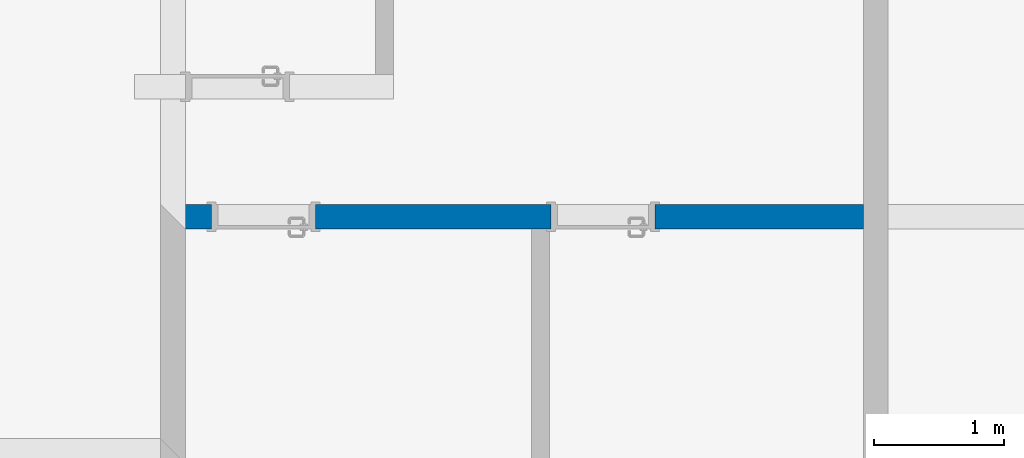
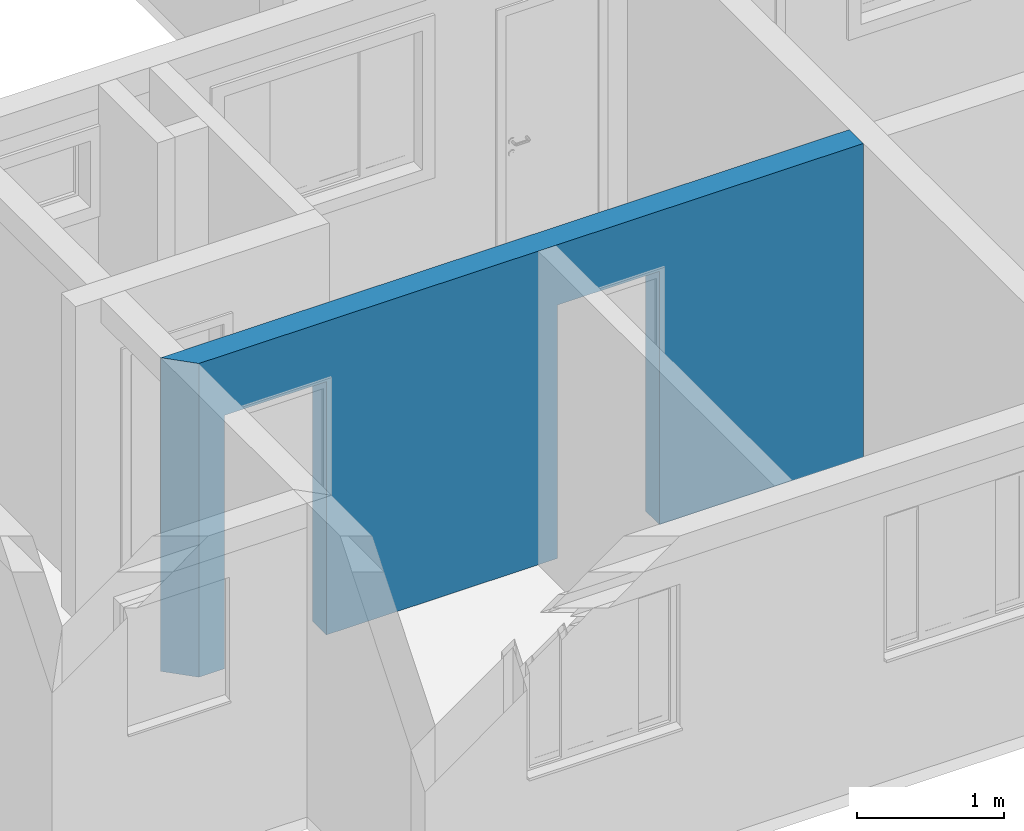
# One storey, part 8 of 47: 1 wall, 2 openings.
"""IFC2X3 building model written with IfcOpenShell, lengths in millimetres."""

from ifc_helpers import new_model, entity, si_unit, converted_unit, derived_unit, money_unit, direction, frame, origin_with_axes, origin_2d_with_axis, place, context, subcontext, project, spatial, polyline, rectangle, outline, extrude, material, layer, layer_set, layer_usage, type_object, element, save


model = new_model("IFC2X3")

# Units and contexts
model_context = context("Model", 3, precision=0.01, world=origin_with_axes(), true_north=direction((0.0, 1.0)))
body_context = subcontext(model_context, "Body", "Model", "MODEL_VIEW")
ifc_project = project(units=[si_unit("LENGTHUNIT", "METRE", prefix="MILLI"), si_unit("AREAUNIT", "SQUARE_METRE"), si_unit("VOLUMEUNIT", "CUBIC_METRE"), converted_unit("PLANEANGLEUNIT", "DEGREE", entity("IfcPlaneAngleMeasure", 0.0174532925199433), si_unit("PLANEANGLEUNIT", "RADIAN"), dimensions=[0, 0, 0, 0, 0, 0, 0]), money_unit("USD"), converted_unit("TIMEUNIT", "Year", entity("IfcTimeMeasure", 31557600.0), si_unit("TIMEUNIT", "SECOND"), dimensions=[0, 0, 1, 0, 0, 0, 0]), si_unit("MASSUNIT", "GRAM", prefix="KILO"), si_unit("THERMODYNAMICTEMPERATUREUNIT", "DEGREE_CELSIUS"), si_unit("LUMINOUSINTENSITYUNIT", "LUMEN"), si_unit("ENERGYUNIT", "JOULE", prefix="MEGA"), derived_unit("THERMALCONDUCTANCEUNIT", [(si_unit("POWERUNIT", "WATT"), 1), (si_unit("LENGTHUNIT", "METRE"), -1), (si_unit("THERMODYNAMICTEMPERATUREUNIT", "KELVIN"), -1)]), derived_unit("SPECIFICHEATCAPACITYUNIT", [(si_unit("ENERGYUNIT", "JOULE"), 1), (si_unit("MASSUNIT", "GRAM", prefix="KILO"), -1), (si_unit("THERMODYNAMICTEMPERATUREUNIT", "KELVIN"), -1)]), derived_unit("MASSDENSITYUNIT", [(si_unit("MASSUNIT", "GRAM", prefix="KILO"), 1), (si_unit("VOLUMEUNIT", "CUBIC_METRE"), -1)])], contexts=[model_context])

# Site, building, storey
site_placement = place(None, origin_with_axes())
site = spatial("IfcSite", under=ifc_project, at=site_placement, Name="Local", CompositionType="ELEMENT")
building_placement = place(site_placement, origin_with_axes())
building = spatial("IfcBuilding", under=site, at=building_placement, Name="Construção", CompositionType="ELEMENT")
storey_placement = place(building_placement, origin_with_axes())
storey = spatial("IfcBuildingStorey", under=building, at=storey_placement, Name="Pavimento Tipo", CompositionType="ELEMENT", Elevation=0.0)

# Wall, openings
ifc_material = material(Name="Concreto - Estrutural")
ifc_layer = layer(ifc_material, 190.0, ventilated="UNKNOWN")
ifc_layer_set = layer_set([ifc_layer], Name="Concreto - Estrutural 190")
ifc_layer_usage = layer_usage(ifc_layer_set, "AXIS2", "NEGATIVE", 0.0)
wall_type = type_object("IfcWallType", Name="Concreto - Estrutural 190", PredefinedType="NOTDEFINED")
wall_placement = place(storey_placement, frame((-4547.433002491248, 1986.981417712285, 0.0), z_axis=(0.0, 0.0, 1.0), x_axis=(1.0, 0.0, 0.0)))
wall = element("IfcWallStandardCase", 1, at=wall_placement, inside=storey, type_object=wall_type, material=ifc_layer_usage, Name="Apartamento 3 - Parede-084", context=body_context, shape_type="SweptSolid", body=[
    extrude(outline(polyline([(190.0000000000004, -189.9999999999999), (5399.999999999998, -189.9999999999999), (5399.999999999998, 0.0), (0.0, 0.0), (190.0000000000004, -189.9999999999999)])), origin_with_axes(), (0.0, 0.0, 1.0), 2600.0),
])
opening_1_placement = place(wall_placement, frame((790.0000000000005, 0.0, 0.0), z_axis=(0.0, 0.0, 1.0), x_axis=(1.0, 0.0, 0.0)))
element("IfcOpeningElement", 2, at=opening_1_placement, cuts=wall, Name="Apartamento 3 - P03", context=body_context, shape_type="SweptSolid", body=[
    extrude(rectangle(XDim=799.9999999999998, YDim=2100.0, at=origin_2d_with_axis()), frame((0.0, -189.9999999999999, 1050.0), z_axis=(0.0, 1.0, 0.0), x_axis=(-1.0, 0.0, 0.0)), (0.0, 0.0, 1.0), 570.0000000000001),
    extrude(rectangle(XDim=870.0000000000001, YDim=2135.0, at=origin_2d_with_axis()), frame((0.0, -189.9999999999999, 1067.5), z_axis=(0.0, 1.0, 0.0), x_axis=(-1.0, 0.0, 0.0)), (0.0, 0.0, -1.0), 190.0),
    extrude(rectangle(XDim=869.9999999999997, YDim=2135.0, at=origin_2d_with_axis()), frame((0.0, 0.0, 1067.5), z_axis=(0.0, -1.0, 0.0), x_axis=(-1.0, 0.0, 0.0)), (0.0, 0.0, -1.0), 190.0),
])
opening_2_placement = place(wall_placement, frame((3400.0, 0.0, 0.0), z_axis=(0.0, 0.0, 1.0), x_axis=(1.0, 0.0, 0.0)))
element("IfcOpeningElement", 3, at=opening_2_placement, cuts=wall, Name="Apartamento 3 - P04", context=body_context, shape_type="SweptSolid", body=[
    extrude(rectangle(XDim=799.9999999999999, YDim=2100.0, at=origin_2d_with_axis()), frame((0.0, -189.9999999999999, 1050.0), z_axis=(0.0, 1.0, 0.0), x_axis=(-1.0, 0.0, 0.0)), (0.0, 0.0, 1.0), 570.0000000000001),
    extrude(rectangle(XDim=870.0000000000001, YDim=2135.0, at=origin_2d_with_axis()), frame((0.0, -189.9999999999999, 1067.5), z_axis=(0.0, 1.0, 0.0), x_axis=(-1.0, 0.0, 0.0)), (0.0, 0.0, -1.0), 190.0),
    extrude(rectangle(XDim=870.0000000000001, YDim=2135.0, at=origin_2d_with_axis()), frame((0.0, 0.0, 1067.5), z_axis=(0.0, -1.0, 0.0), x_axis=(-1.0, 0.0, 0.0)), (0.0, 0.0, -1.0), 190.0),
])

save(model, "model.ifc")
